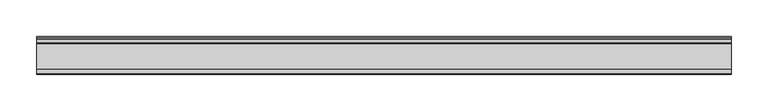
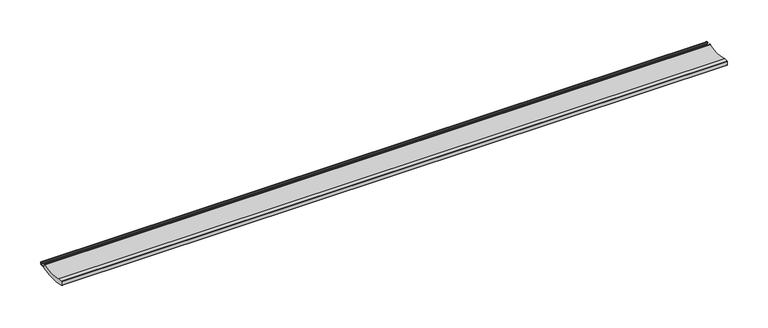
"""IFC4 building model written with IfcOpenShell, lengths in millimetres: proxy geometry, Weiku - Montante -  aleta persiana 02.2.01.305 : Weiku - Montante -  aleta persiana 02.2.01.305."""

from ifc_helpers import new_model, si_unit, point, frame, frame_2d, origin, place, context, project, spatial, polyline, circle_curve, trimmed, segment, composite_curve, outline, extrude, source, transform, mapped, element, save


def generic_models_8f27af63(model_context):
    return source(origin(), model_context, "Body", "SweptSolid", [
        extrude(outline(composite_curve([segment(trimmed(circle_curve(frame_2d((42.5, 4.6694318)), 0.5), [point((42.3231022, 5.1370932))], [point((43.0, 4.6694318))], False, "CARTESIAN"), True, "CONTINUOUS"), segment(polyline([(43.0, 4.6694318), (43.0, 0.8), (49.865, 0.8)]), True, "CONTINUOUS"), segment(trimmed(circle_curve(frame_2d((49.865, 2.175)), 1.375), [point((49.865, 0.8))], [point((48.8043398, 3.05))], True, "CARTESIAN"), True, "CONTINUOUS"), segment(polyline([(48.8043398, 3.05), (48.8043398, 4.35), (49.865, 4.35)]), True, "CONTINUOUS"), segment(trimmed(circle_curve(frame_2d((49.865, 2.175)), 2.175), [point((49.865, 4.35))], [point((49.865, 0.0))], False, "CARTESIAN"), True, "CONTINUOUS"), segment(polyline([(49.865, 0.0), (43.0, 0.0), (43.0, -0.7827712)]), True, "CONTINUOUS"), segment(trimmed(circle_curve(frame_2d((21.6253298, 78.0935981)), 81.7212223), [point((43.0, -0.7827712))], [point((29.1695632, -3.2786497))], False, "CARTESIAN"), True, "CONTINUOUS"), segment(trimmed(circle_curve(frame_2d((28.6558102, -3.9281482)), 0.8281247), [point((29.1695632, -3.2786497))], [point((28.03902, -3.375554))], True, "CARTESIAN"), True, "CONTINUOUS"), segment(trimmed(circle_curve(frame_2d((21.6253298, 78.0935981)), 81.7212223), [point((28.03902, -3.375554))], [point((14.8747096, -3.3483278))], False, "CARTESIAN"), True, "CONTINUOUS"), segment(trimmed(circle_curve(frame_2d((14.2816485, -3.8467778)), 0.7747088), [point((14.8747096, -3.3483278))], [point((13.7866712, -3.2508153))], True, "CARTESIAN"), True, "CONTINUOUS"), segment(trimmed(circle_curve(frame_2d((21.6253298, 78.0935981)), 81.7212223), [point((13.7866712, -3.2508153))], [point((0.5941175, -0.875043))], False, "CARTESIAN"), True, "CONTINUOUS"), segment(trimmed(circle_curve(frame_2d((0.8, -0.101989)), 0.8), [point((0.5941175, -0.875043))], [point((0.0, -0.101989))], False, "CARTESIAN"), True, "CONTINUOUS"), segment(polyline([(0.0, -0.101989), (0.0, 4.604273)]), True, "CONTINUOUS"), segment(trimmed(circle_curve(frame_2d((0.6784053, 4.604273)), 0.6784053), [point((0.0, 4.604273))], [point((0.6784053, 5.2826784))], False, "CARTESIAN"), True, "CONTINUOUS"), segment(polyline([(0.6784053, 5.2826784), (7.0094119, 5.2826784)]), True, "CONTINUOUS"), segment(trimmed(circle_curve(frame_2d((24.8563258, 51.3136844)), 49.3696856), [point((7.0094119, 5.2826784))], [point((42.3231022, 5.1370932))], True, "CARTESIAN"), True, "CONTINUOUS")], self_intersect=False)), frame((-473.75, 0.0, 0.0), z_axis=(1.0, 0.0, 0.0), x_axis=(0.0, 1.0, 0.0)), (0.0, 0.0, 1.0), 947.5),
    ])


if __name__ == "__main__":
    model = new_model("IFC4")
    model_context = context("Model", 3, world=origin())
    ifc_project = project(units=[si_unit("LENGTHUNIT", "METRE", prefix="MILLI")], contexts=[model_context])
    site = spatial("IfcSite", under=ifc_project)
    building = spatial("IfcBuilding", under=site)
    placement = place(None, origin())
    generic_models_shape = generic_models_8f27af63(model_context)
    element("IfcBuildingElementProxy", 1, Name="Weiku - Montante -  aleta persiana 02.2.01.305 : Weiku - Montante -  aleta persiana 02.2.01.305", ObjectType="Weiku - Montante -  aleta persiana 02.2.01.305 : Weiku - Montante -  aleta persiana 02.2.01.305", at=placement, inside=building, context=model_context, shape_type="MappedRepresentation", body=[
        mapped(generic_models_shape, transform((0.0, 0.0, 0.0), x_axis=(1.0, 0.0, 0.0), y_axis=(0.0, 1.0, 0.0), z_axis=(0.0, 0.0, 1.0))),
    ])
    save(model, "model.ifc")
